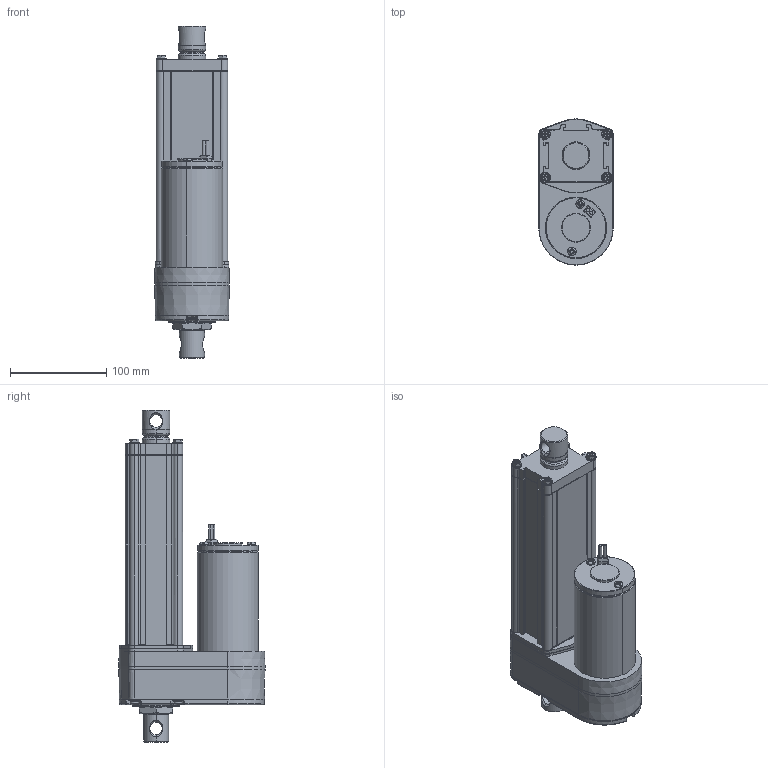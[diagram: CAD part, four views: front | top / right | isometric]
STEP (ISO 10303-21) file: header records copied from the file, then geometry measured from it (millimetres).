
FILE_DESCRIPTION((''),' ');
FILE_NAME('dszy13-100-std.stp',' ',('r'),('r'),' ','ACIS 14.0',' ');
FILE_SCHEMA(('automotive_design'));
Length unit declared in the file: inch
Products named in the file (2): DSZY13-100-STD
Bounding box: 77.3 x 151.8 x 344.5 mm (x, y, z)
Volume: 1717395.5 mm3; surface area: 205849 mm2
Topology: 2 solids, 29 shells, 1813 faces, 4451 edges, 2735 vertices
Faces by surface type: plane 937, cylinder 508, cone 135, torus 110, bspline 107, sphere 16
Entity records: 73166 total; most frequent: CARTESIAN_POINT 17694, ORIENTED_EDGE 8842, DIRECTION 8403, EDGE_CURVE 4421, AXIS2_PLACEMENT_3D 3166, VERTEX_POINT 2735, LINE 2071, VECTOR 2071
